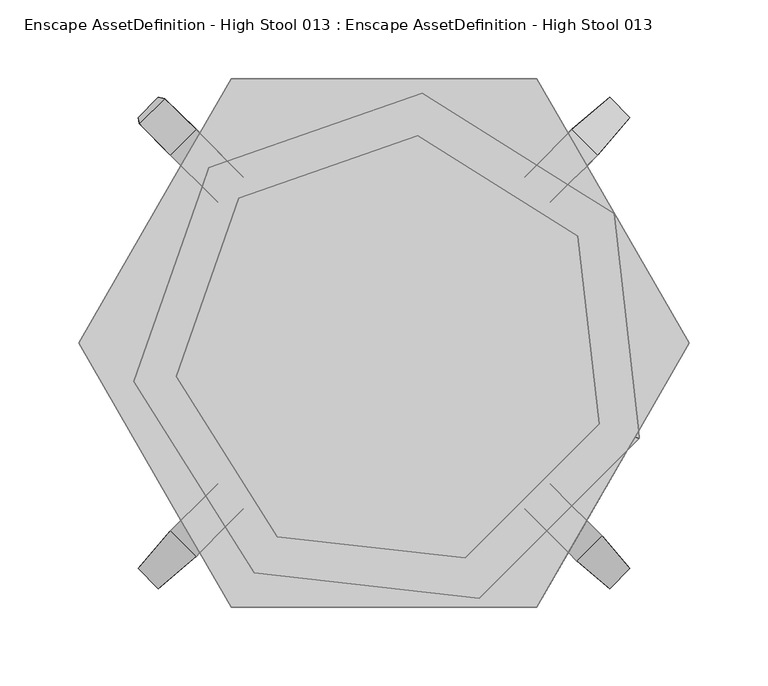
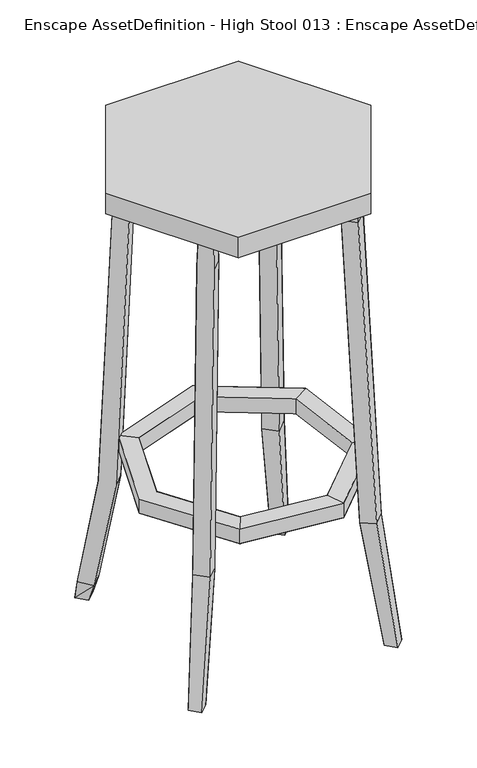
"""IFC4 building model written with IfcOpenShell, lengths in millimetres: geographic element geometry, Enscape AssetDefinition - High Stool 013 : Enscape AssetDefinition - High Stool 013."""

from ifc_helpers import new_model, si_unit, origin, place, context, project, spatial, triangles, source, transform, mapped, element, save


def enscape_assetdefinition_high_stool_013_enscape_60fb523d(model_context):
    return source(origin(), model_context, "Body", "Tessellation", [
        triangles([(194.213636, 3e-07, 694.8662344), (-194.213636, -1.67e-05, 694.8662344), (97.1067998, -168.1939487, 694.8662344), (97.1067998, -168.1939487, 727.1598301), (-97.1067998, -168.1939487, 694.8662344), (-97.106818, 168.1939306, 694.8662344), (-194.213636, -1.67e-05, 727.1598301), (-97.106818, 168.1939306, 727.1598301), (-97.1067998, -168.1939487, 727.1598301), (194.213636, 3e-07, 727.1598301), (97.1068089, 168.1939487, 694.8662344), (97.1068089, 168.1939487, 727.1598301), (-105.0608201, 119.099489, 696.1564899), (-89.6222548, 105.6440149, 649.9548769), (-119.0992347, 105.0610745, 696.1564899), (-105.0620283, 91.023859, 696.4177385), (-119.4868109, 135.9405941, 188.5681593), (-121.6695266, 105.6437151, 650.06737), (-105.6434608, 121.6697718, 650.06737), (-105.6437878, 89.6225001, 649.9548769), (-91.0236137, 105.0622735, 696.4177385), (-119.5584454, 103.2173007, 186.005089), (-135.9405396, 119.4868836, 188.5681593), (-139.4774512, 155.5012097, 27.6053463), (-130.6435609, 143.5385769, 0.0), (-143.532082, 156.4270979, 0.0), (-155.5012097, 139.4774785, 27.6053463), (-139.5738752, 123.5501349, 25.1168626), (-156.4206121, 143.538595, 0.0), (-143.5321002, 130.6500558, 0.0), (-123.5501167, 139.5738843, 25.1168626), (-103.2172372, 119.5584817, 186.005089), (119.0994618, 105.0608565, 696.1564173), (105.6439877, 89.6223003, 649.9548769), (105.0610472, 119.0992801, 696.1564173), (105.6436788, 121.669572, 650.06737), (135.9406122, 119.4868109, 188.5681593), (121.6697446, 105.6435062, 650.06737), (89.6224638, 105.6438241, 649.9548769), (105.0622554, 91.0236682, 696.4177385), (91.0238499, 105.0620919, 696.4177385), (103.2173007, 119.5584272, 186.0050164), (143.538595, 156.4205758, 0.0), (119.4868745, 135.9405486, 188.5681593), (130.650074, 143.5320547, 0.0), (156.4270979, 143.5320547, 0.0), (119.5584726, 103.2172372, 186.0050164), (143.5385769, 130.6435337, 0.0), (-119.0994164, -105.0609019, 696.1564173), (-105.6439513, -89.6223366, 649.9548769), (-105.062219, -91.0236955, 696.4177385), (-89.6224274, -105.6438514, 649.9548769), (-103.2172372, -119.5584635, 186.0050164), (-105.0610018, -119.0993073, 696.1564173), (-91.0237954, -105.06211, 696.4177385), (-121.6696991, -105.6435426, 650.06737), (-105.6436334, -121.6696083, 650.06737), (-143.5385224, -156.4206121, 0.0), (-119.48682, -135.9405941, 188.5681593), (-135.9405668, -119.4868564, 188.5681593), (-130.6500104, -143.5321002, 0.0), (-156.4270434, -143.5321002, 0.0), (-143.5385314, -130.6435882, 0.0), (-119.5584272, -103.2172735, 186.0050164), (89.622273, -105.6439877, 649.9548769), (122.8036143, -106.8187252, 186.0662772), (105.6437969, -89.6224547, 649.9548769), (119.0992438, -105.0610381, 696.1564899), (105.0608292, -119.0994618, 696.1564899), (121.6695447, -105.6436788, 650.06737), (91.0236319, -105.0622644, 696.4177385), (105.0620464, -91.0238499, 696.4177385), (138.8001397, -122.7358223, 188.5084064), (156.420703, -143.5384769, 0.0), (143.532191, -130.649965, 0.0), (122.7359131, -138.800058, 188.5084064), (106.8188069, -122.8035416, 186.0662772), (105.643479, -121.6697355, 650.06737), (130.6436699, -143.538486, 0.0), (143.532191, -156.4269889, 0.0), (162.4462618, -60.6194058, 255.9419539), (146.3227728, 82.4796676, 233.7761557), (123.2590734, 67.9877832, 233.3224952), (162.4462618, -60.6194194, 233.7761739), (60.6196238, -162.4461528, 255.9418631), (21.3408735, 132.0270157, 233.3227677), (-92.2721658, 92.2723475, 256.3956689), (21.340978, 132.0272973, 256.3956689), (146.3226184, 82.4795313, 255.9421719), (123.259246, 67.9878968, 256.3958688), (136.7359761, -51.6229754, 256.3955418), (24.3907487, 159.0949584, 255.9417541), (-159.0946677, -24.3905466, 255.9419539), (-111.5327543, 111.5330268, 255.9420992), (-92.2721658, 92.2723656, 233.322477), (-111.5327543, 111.5330268, 233.7760285), (24.39076, 159.0949584, 233.7763737), (-67.9876515, -123.2591188, 233.3223862), (-159.0946677, -24.3905466, 233.7761739), (60.6196329, -162.4461709, 233.7762647), (-82.4795767, -146.3228183, 233.7763011), (51.6232752, -136.7360034, 256.3957779), (51.6232752, -136.7360215, 233.3223498), (-67.9876379, -123.2591188, 256.3957598), (136.7360397, -51.6229527, 233.3225497), (-82.4795676, -146.3228183, 255.9418449), (-132.0274608, -21.3407305, 233.3222408), (-132.0274517, -21.3407259, 256.3959051)], [[95, 87, 108], [108, 107, 95], [107, 108, 104], [106, 104, 108], [91, 81, 89], [81, 91, 102], [104, 106, 85], [85, 102, 104], [102, 85, 81], [100, 85, 106], [100, 103, 105], [103, 102, 91], [91, 105, 103], [104, 98, 107], [98, 104, 102], [102, 103, 98], [101, 98, 103], [103, 100, 101], [106, 101, 100], [93, 108, 87], [108, 93, 106], [101, 106, 93], [99, 107, 98], [98, 101, 99], [93, 99, 101], [95, 96, 97], [96, 95, 107], [107, 99, 96], [87, 94, 93], [94, 96, 99], [99, 93, 94], [97, 92, 89], [92, 97, 96], [96, 94, 92], [90, 89, 92], [105, 91, 90], [89, 90, 91], [92, 88, 90], [88, 92, 94], [94, 87, 88], [97, 86, 95], [86, 88, 87], [87, 95, 86], [83, 90, 88], [88, 86, 83], [90, 83, 105], [105, 84, 100], [85, 100, 84], [84, 81, 85], [84, 105, 83], [82, 83, 86], [86, 97, 82], [89, 82, 97], [83, 82, 84], [81, 84, 82], [82, 89, 81], [75, 79, 77], [77, 79, 80], [77, 76, 78], [80, 76, 77], [73, 74, 75], [73, 76, 80], [80, 74, 73], [77, 66, 75], [75, 66, 73], [73, 66, 67], [71, 72, 67], [67, 70, 73], [70, 78, 76], [76, 73, 70], [70, 67, 72], [72, 68, 70], [78, 70, 68], [68, 69, 78], [65, 67, 66], [66, 77, 65], [78, 65, 77], [67, 65, 71], [69, 71, 65], [65, 78, 69], [61, 63, 64], [64, 63, 62], [64, 60, 56], [62, 60, 64], [59, 58, 61], [59, 60, 62], [62, 58, 59], [64, 53, 61], [61, 53, 59], [59, 53, 52], [51, 55, 52], [52, 57, 59], [57, 56, 60], [60, 59, 57], [57, 52, 55], [55, 54, 57], [56, 57, 54], [54, 49, 56], [50, 52, 53], [53, 64, 50], [56, 50, 64], [52, 50, 51], [49, 51, 50], [50, 56, 49], [45, 48, 47], [47, 48, 46], [47, 37, 38], [46, 37, 47], [44, 43, 45], [44, 37, 46], [46, 43, 44], [47, 42, 45], [45, 42, 44], [44, 42, 39], [40, 41, 39], [39, 36, 44], [36, 38, 37], [37, 44, 36], [36, 39, 41], [41, 35, 36], [38, 36, 35], [35, 33, 38], [34, 39, 42], [42, 47, 34], [38, 34, 47], [39, 34, 40], [33, 40, 34], [34, 38, 33], [28, 31, 32], [31, 28, 30], [30, 25, 31], [29, 30, 28], [28, 27, 29], [26, 29, 27], [27, 24, 26], [24, 31, 25], [25, 26, 24], [32, 17, 19], [17, 32, 31], [31, 24, 17], [23, 27, 28], [23, 17, 24], [24, 27, 23], [32, 22, 28], [28, 22, 23], [23, 22, 20], [21, 16, 20], [20, 18, 23], [18, 19, 17], [17, 23, 18], [18, 20, 16], [16, 15, 18], [19, 18, 15], [15, 13, 19], [14, 20, 22], [22, 32, 14], [19, 14, 32], [20, 14, 21], [13, 21, 14], [14, 19, 13], [10, 12, 8], [8, 12, 11], [12, 10, 1], [1, 11, 12], [3, 1, 10], [10, 4, 3], [4, 10, 9], [10, 8, 9], [8, 7, 9], [7, 8, 6], [11, 6, 8], [6, 11, 1], [9, 7, 2], [6, 2, 7], [4, 9, 5], [5, 3, 4], [2, 5, 9], [3, 5, 1], [5, 6, 1], [5, 2, 6]], closed=False),
    ])


if __name__ == "__main__":
    model = new_model("IFC4")
    model_context = context("Model", 3, world=origin())
    ifc_project = project(units=[si_unit("LENGTHUNIT", "METRE", prefix="MILLI")], contexts=[model_context])
    site = spatial("IfcSite", under=ifc_project)
    building = spatial("IfcBuilding", under=site)
    placement = place(None, origin())
    enscape_assetdefinition_high_stool_013_enscape_shape = enscape_assetdefinition_high_stool_013_enscape_60fb523d(model_context)
    element("IfcGeographicElement", 1, ObjectType="Enscape AssetDefinition - High Stool 013 : Enscape AssetDefinition - High Stool 013", at=placement, inside=building, context=model_context, shape_type="MappedRepresentation", body=[
        mapped(enscape_assetdefinition_high_stool_013_enscape_shape, transform((0.0, 0.0, 0.0), x_axis=(1.0, 0.0, 0.0), y_axis=(0.0, 1.0, 0.0), z_axis=(0.0, 0.0, 1.0))),
    ])
    save(model, "model.ifc")
